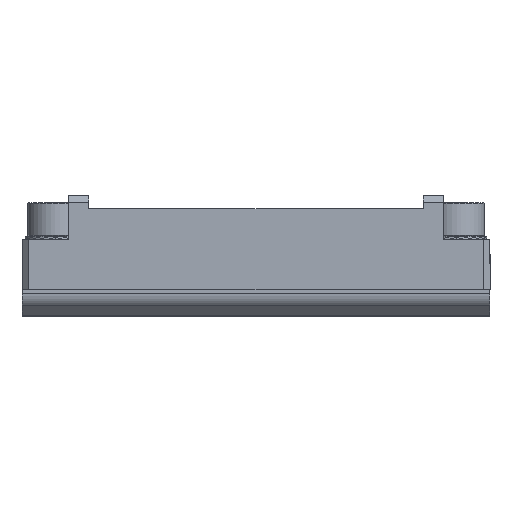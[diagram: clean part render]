
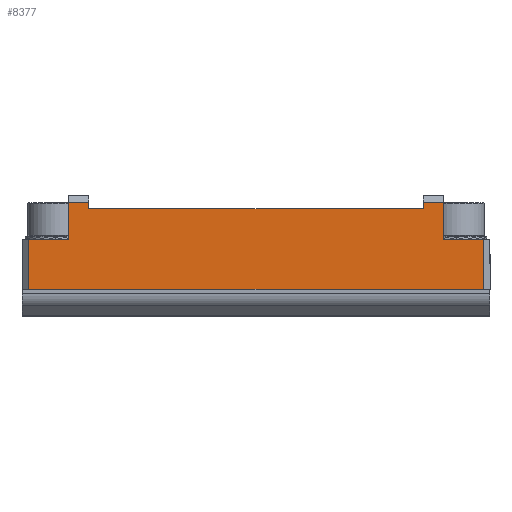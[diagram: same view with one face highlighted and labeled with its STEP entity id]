
A CAD part, top view. The second image highlights one B-rep face of the part: STEP entity #8377.
In plain terms, the highlighted planar face has unit normal (0, 0, 1).
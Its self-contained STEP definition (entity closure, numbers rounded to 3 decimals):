
#42 = ORIENTED_EDGE ( 'NONE', *, *, #263, .F. ) ;
#145 = EDGE_CURVE ( 'NONE', #163, #1835, #8249, .T. ) ;
#163 = VERTEX_POINT ( 'NONE', #7091 ) ;
#263 = EDGE_CURVE ( 'NONE', #446, #3199, #9137, .T. ) ;
#404 = EDGE_LOOP ( 'NONE', ( #493, #4532, #2962, #8265, #4882, #7503, #4349, #4459, #42, #10457, #4999, #1350 ) ) ;
#446 = VERTEX_POINT ( 'NONE', #8031 ) ;
#493 = ORIENTED_EDGE ( 'NONE', *, *, #4518, .T. ) ;
#681 = CARTESIAN_POINT ( 'NONE',  ( -118.584, 13.986, 59.637 ) ) ;
#689 = AXIS2_PLACEMENT_3D ( 'NONE', #926, #6578, #1750 ) ;
#710 = EDGE_CURVE ( 'NONE', #9279, #9886, #10243, .T. ) ;
#752 = CARTESIAN_POINT ( 'NONE',  ( -68.584, 11.986, 59.637 ) ) ;
#843 = VECTOR ( 'NONE', #8156, 1000. ) ;
#926 = CARTESIAN_POINT ( 'NONE',  ( -128.584, -0.014, 59.637 ) ) ;
#946 = VECTOR ( 'NONE', #3522, 1000. ) ;
#1151 = VERTEX_POINT ( 'NONE', #10133 ) ;
#1207 = LINE ( 'NONE', #5924, #946 ) ;
#1350 = ORIENTED_EDGE ( 'NONE', *, *, #710, .T. ) ;
#1493 = VECTOR ( 'NONE', #8317, 1000. ) ;
#1510 = VERTEX_POINT ( 'NONE', #5902 ) ;
#1535 = CARTESIAN_POINT ( 'NONE',  ( -59.584, -0.014, 59.637 ) ) ;
#1720 = CARTESIAN_POINT ( 'NONE',  ( -121.584, 7.486, 59.637 ) ) ;
#1750 = DIRECTION ( 'NONE',  ( 1., 0., 0. ) ) ;
#1835 = VERTEX_POINT ( 'NONE', #5528 ) ;
#2531 = CARTESIAN_POINT ( 'NONE',  ( -128.584, 12.986, 59.637 ) ) ;
#2576 = LINE ( 'NONE', #5400, #6860 ) ;
#2642 = LINE ( 'NONE', #6298, #4525 ) ;
#2919 = LINE ( 'NONE', #681, #9343 ) ;
#2962 = ORIENTED_EDGE ( 'NONE', *, *, #145, .T. ) ;
#2983 = DIRECTION ( 'NONE',  ( 0., -1., 0. ) ) ;
#3007 = FACE_OUTER_BOUND ( 'NONE', #404, .T. ) ;
#3132 = EDGE_CURVE ( 'NONE', #9017, #446, #2919, .T. ) ;
#3199 = VERTEX_POINT ( 'NONE', #752 ) ;
#3372 = CARTESIAN_POINT ( 'NONE',  ( -118.584, 12.986, 59.637 ) ) ;
#3377 = CARTESIAN_POINT ( 'NONE',  ( -68.584, 12.986, 59.637 ) ) ;
#3522 = DIRECTION ( 'NONE',  ( -1., 0., 0. ) ) ;
#3886 = VECTOR ( 'NONE', #4966, 1000. ) ;
#3964 = VERTEX_POINT ( 'NONE', #3377 ) ;
#3975 = CARTESIAN_POINT ( 'NONE',  ( -121.584, 12.986, 59.637 ) ) ;
#4003 = LINE ( 'NONE', #10221, #10412 ) ;
#4051 = EDGE_CURVE ( 'NONE', #3199, #3964, #6060, .T. ) ;
#4153 = PLANE ( 'NONE',  #689 ) ;
#4349 = ORIENTED_EDGE ( 'NONE', *, *, #9508, .T. ) ;
#4459 = ORIENTED_EDGE ( 'NONE', *, *, #4051, .F. ) ;
#4518 = EDGE_CURVE ( 'NONE', #9886, #1510, #10306, .T. ) ;
#4525 = VECTOR ( 'NONE', #7106, 1000. ) ;
#4532 = ORIENTED_EDGE ( 'NONE', *, *, #8733, .T. ) ;
#4882 = ORIENTED_EDGE ( 'NONE', *, *, #5042, .T. ) ;
#4966 = DIRECTION ( 'NONE',  ( -1., 0., 0. ) ) ;
#4999 = ORIENTED_EDGE ( 'NONE', *, *, #8361, .T. ) ;
#5042 = EDGE_CURVE ( 'NONE', #8794, #9545, #2576, .T. ) ;
#5173 = CARTESIAN_POINT ( 'NONE',  ( -65.584, 7.486, 59.637 ) ) ;
#5178 = EDGE_CURVE ( 'NONE', #1835, #8794, #9875, .T. ) ;
#5342 = VECTOR ( 'NONE', #6374, 1000. ) ;
#5400 = CARTESIAN_POINT ( 'NONE',  ( -58.584, 7.486, 59.637 ) ) ;
#5528 = CARTESIAN_POINT ( 'NONE',  ( -59.584, -0.014, 59.637 ) ) ;
#5696 = CARTESIAN_POINT ( 'NONE',  ( -121.584, 7.486, 59.637 ) ) ;
#5902 = CARTESIAN_POINT ( 'NONE',  ( -127.584, 7.486, 59.637 ) ) ;
#5924 = CARTESIAN_POINT ( 'NONE',  ( -128.584, 12.986, 59.637 ) ) ;
#5983 = VECTOR ( 'NONE', #8569, 1000. ) ;
#6060 = LINE ( 'NONE', #8251, #1493 ) ;
#6213 = DIRECTION ( 'NONE',  ( -1., 0., 0. ) ) ;
#6298 = CARTESIAN_POINT ( 'NONE',  ( -65.584, 7.486, 59.637 ) ) ;
#6374 = DIRECTION ( 'NONE',  ( 0., 1., 0. ) ) ;
#6578 = DIRECTION ( 'NONE',  ( 0., 0., 1. ) ) ;
#6860 = VECTOR ( 'NONE', #6213, 1000. ) ;
#6990 = VECTOR ( 'NONE', #8321, 1000. ) ;
#7091 = CARTESIAN_POINT ( 'NONE',  ( -127.584, -0.014, 59.637 ) ) ;
#7106 = DIRECTION ( 'NONE',  ( 0., 1., 0. ) ) ;
#7182 = CARTESIAN_POINT ( 'NONE',  ( -121.584, 13.986, 59.637 ) ) ;
#7295 = LINE ( 'NONE', #2531, #843 ) ;
#7503 = ORIENTED_EDGE ( 'NONE', *, *, #8184, .T. ) ;
#7897 = DIRECTION ( 'NONE',  ( 0., -1., 0. ) ) ;
#7996 = VECTOR ( 'NONE', #8393, 1000. ) ;
#8031 = CARTESIAN_POINT ( 'NONE',  ( -118.584, 11.986, 59.637 ) ) ;
#8156 = DIRECTION ( 'NONE',  ( -1., 0., 0. ) ) ;
#8184 = EDGE_CURVE ( 'NONE', #9545, #1151, #2642, .T. ) ;
#8249 = LINE ( 'NONE', #9214, #7996 ) ;
#8251 = CARTESIAN_POINT ( 'NONE',  ( -68.584, 11.986, 59.637 ) ) ;
#8265 = ORIENTED_EDGE ( 'NONE', *, *, #5178, .T. ) ;
#8317 = DIRECTION ( 'NONE',  ( 0., 1., 0. ) ) ;
#8321 = DIRECTION ( 'NONE',  ( 1., 0., 0. ) ) ;
#8361 = EDGE_CURVE ( 'NONE', #9017, #9279, #7295, .T. ) ;
#8377 = ADVANCED_FACE ( 'NONE', ( #3007 ), #4153, .T. ) ;
#8393 = DIRECTION ( 'NONE',  ( 1., 0., 0. ) ) ;
#8569 = DIRECTION ( 'NONE',  ( 0., -1., 0. ) ) ;
#8733 = EDGE_CURVE ( 'NONE', #1510, #163, #4003, .T. ) ;
#8794 = VERTEX_POINT ( 'NONE', #10290 ) ;
#9017 = VERTEX_POINT ( 'NONE', #3372 ) ;
#9137 = LINE ( 'NONE', #9947, #6990 ) ;
#9214 = CARTESIAN_POINT ( 'NONE',  ( -128.584, -0.014, 59.637 ) ) ;
#9279 = VERTEX_POINT ( 'NONE', #3975 ) ;
#9343 = VECTOR ( 'NONE', #7897, 1000. ) ;
#9508 = EDGE_CURVE ( 'NONE', #1151, #3964, #1207, .T. ) ;
#9545 = VERTEX_POINT ( 'NONE', #5173 ) ;
#9875 = LINE ( 'NONE', #1535, #5342 ) ;
#9886 = VERTEX_POINT ( 'NONE', #5696 ) ;
#9947 = CARTESIAN_POINT ( 'NONE',  ( -118.584, 11.986, 59.637 ) ) ;
#10133 = CARTESIAN_POINT ( 'NONE',  ( -65.584, 12.986, 59.637 ) ) ;
#10221 = CARTESIAN_POINT ( 'NONE',  ( -127.584, -0.014, 59.637 ) ) ;
#10243 = LINE ( 'NONE', #7182, #5983 ) ;
#10290 = CARTESIAN_POINT ( 'NONE',  ( -59.584, 7.486, 59.637 ) ) ;
#10306 = LINE ( 'NONE', #1720, #3886 ) ;
#10412 = VECTOR ( 'NONE', #2983, 1000. ) ;
#10457 = ORIENTED_EDGE ( 'NONE', *, *, #3132, .F. ) ;
